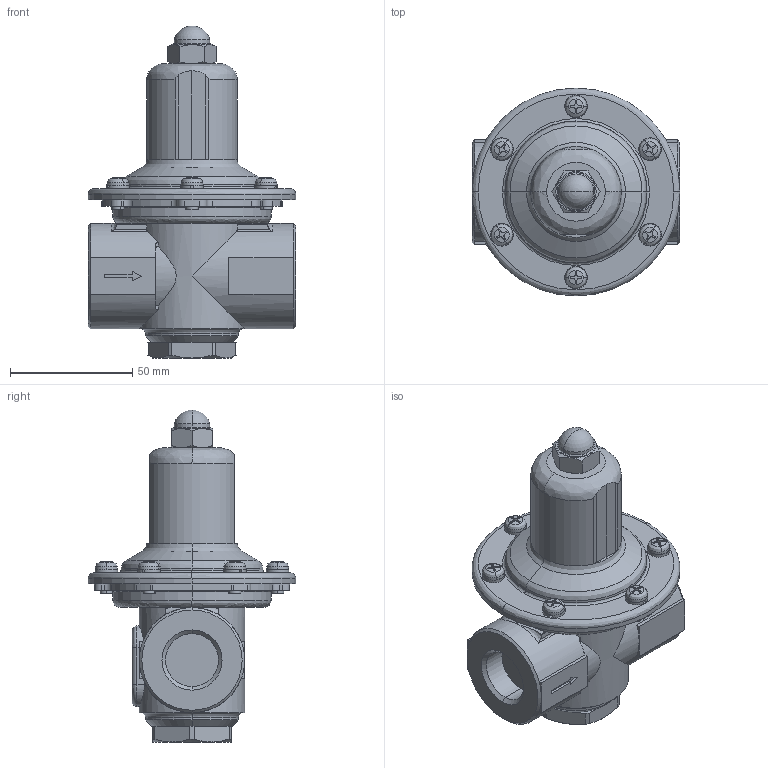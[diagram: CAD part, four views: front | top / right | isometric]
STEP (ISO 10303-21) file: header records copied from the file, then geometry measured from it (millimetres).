
FILE_DESCRIPTION( (''), '2;1');
FILE_NAME ('PC1027.208.GD-41G(20A)_21832.stp','2025-11-26T09:39:04',(''),(''),'spGate 20.6.3 (****-****-****-****)','','');
FILE_SCHEMA (('AUTOMOTIVE_DESIGN'));
Length unit declared in the file: millimetre
Products named in the file (8): Assembly; ばねかばー; 袋ナット; 下部キャップ; なべこねじ(Ｍ5-10); スプリング座金; ダイヤフラム; GD-41 20A
Assembly tree (17 placements, depth 2):
  Assembly
    ばねかばー
    袋ナット
    下部キャップ
    なべこねじ(Ｍ5-10)  x6
    スプリング座金  x6
    ダイヤフラム
    GD-41 20A
Bounding box: 85 x 85 x 135.75 mm (x, y, z)
Volume: 189444.3 mm3; surface area: 71094 mm2
Topology: 17 solids, 17 shells, 607 faces, 1530 edges, 973 vertices
Faces by surface type: plane 255, cylinder 212, bspline 124, sphere 16
Entity records: 24783 total; most frequent: CARTESIAN_POINT 5480, ORIENTED_EDGE 2252, DIRECTION 2036, COLOUR_RGB 1575, PRESENTATION_STYLE_ASSIGNMENT 1575, STYLED_ITEM 1575, EDGE_CURVE 1126, DRAUGHTING_PRE_DEFINED_CURVE_FONT 1126
